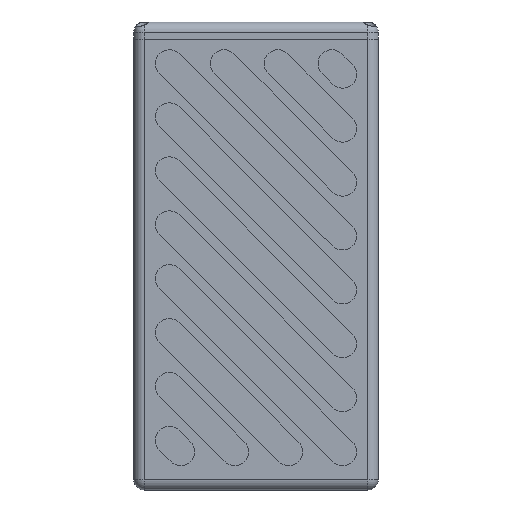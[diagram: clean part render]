
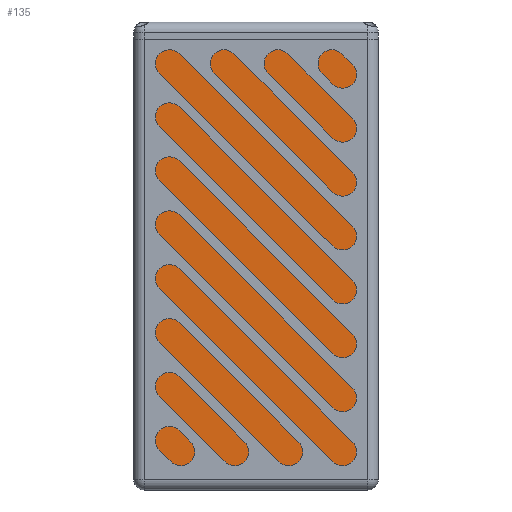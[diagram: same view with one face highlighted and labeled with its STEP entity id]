
A CAD part, left-side view. The second image highlights one B-rep face of the part: STEP entity #135.
In plain terms, the highlighted planar face has unit normal (-1, 0, 0).
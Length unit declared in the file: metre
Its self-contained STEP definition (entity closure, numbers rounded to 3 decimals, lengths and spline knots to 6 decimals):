
#135 = ADVANCED_FACE( '', ( #447 ), #448, .F. );
#447 = FACE_OUTER_BOUND( '', #1140, .T. );
#448 = PLANE( '', #1141 );
#1140 = EDGE_LOOP( '', ( #2752, #2753, #2754, #2755 ) );
#1141 = AXIS2_PLACEMENT_3D( '', #2756, #2757, #2758 );
#2752 = ORIENTED_EDGE( '', *, *, #5066, .T. );
#2753 = ORIENTED_EDGE( '', *, *, #5068, .T. );
#2754 = ORIENTED_EDGE( '', *, *, #5055, .F. );
#2755 = ORIENTED_EDGE( '', *, *, #5069, .F. );
#2756 = CARTESIAN_POINT( '', ( -0.0076, -0.03125, -0.04 ) );
#2757 = DIRECTION( '', ( 1., 0., 0. ) );
#2758 = DIRECTION( '', ( 0., 1., 0. ) );
#5055 = EDGE_CURVE( '', #5833, #5834, #5835, .T. );
#5066 = EDGE_CURVE( '', #5854, #5852, #5855, .T. );
#5068 = EDGE_CURVE( '', #5852, #5834, #5857, .T. );
#5069 = EDGE_CURVE( '', #5854, #5833, #5858, .T. );
#5833 = VERTEX_POINT( '', #7128 );
#5834 = VERTEX_POINT( '', #7129 );
#5835 = LINE( '', #7130, #7131 );
#5852 = VERTEX_POINT( '', #7154 );
#5854 = VERTEX_POINT( '', #7157 );
#5855 = LINE( '', #7158, #7159 );
#5857 = LINE( '', #7162, #7163 );
#5858 = LINE( '', #7164, #7165 );
#7128 = CARTESIAN_POINT( '', ( -0.0076, 0.03125, -0.0405 ) );
#7129 = CARTESIAN_POINT( '', ( -0.0076, 0.03125, 0.084 ) );
#7130 = CARTESIAN_POINT( '', ( -0.0076, 0.03125, -0.04 ) );
#7131 = VECTOR( '', #9881, 1. );
#7154 = CARTESIAN_POINT( '', ( -0.0076, -0.03125, 0.084 ) );
#7157 = CARTESIAN_POINT( '', ( -0.0076, -0.03125, -0.0405 ) );
#7158 = CARTESIAN_POINT( '', ( -0.0076, -0.03125, -0.04 ) );
#7159 = VECTOR( '', #9898, 1. );
#7162 = CARTESIAN_POINT( '', ( -0.0076, -0.03125, 0.084 ) );
#7163 = VECTOR( '', #9900, 1. );
#7164 = CARTESIAN_POINT( '', ( -0.0076, -0.03125, -0.0405 ) );
#7165 = VECTOR( '', #9901, 1. );
#9881 = DIRECTION( '', ( 0., 0., 1. ) );
#9898 = DIRECTION( '', ( 0., 0., 1. ) );
#9900 = DIRECTION( '', ( 0., 1., 0. ) );
#9901 = DIRECTION( '', ( 0., 1., 0. ) );
